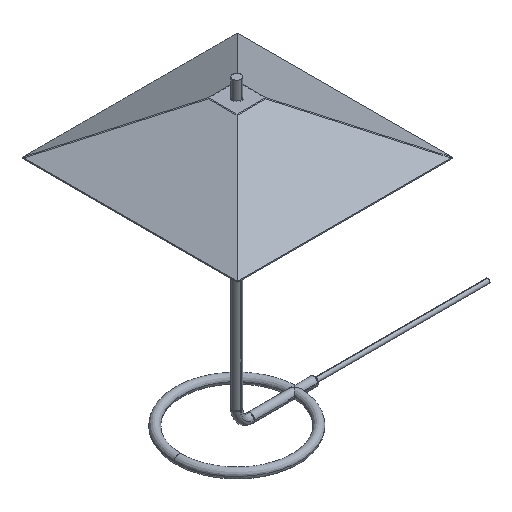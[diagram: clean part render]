
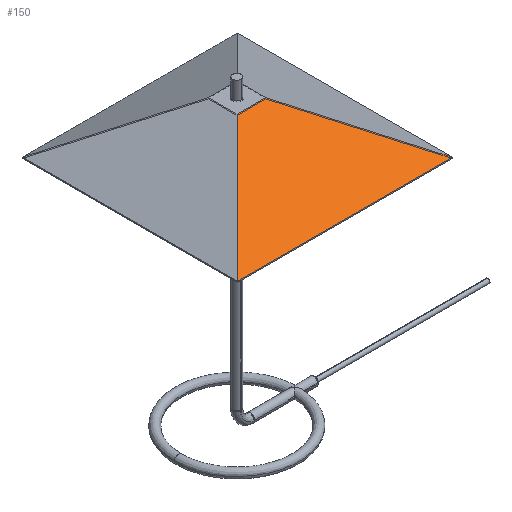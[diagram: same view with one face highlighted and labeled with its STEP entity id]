
A CAD part, isometric view. The second image highlights one B-rep face of the part: STEP entity #150.
In plain terms, the highlighted planar face has unit normal (0, -0.484, 0.875).
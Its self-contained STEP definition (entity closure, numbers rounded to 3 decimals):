
#150=ADVANCED_FACE('',(#284),#1907,.T.);
#284=FACE_OUTER_BOUND('',#424,.T.);
#424=EDGE_LOOP('',(#910,#911,#912,#913));
#910=ORIENTED_EDGE('',*,*,#1280,.F.);
#911=ORIENTED_EDGE('',*,*,#1272,.T.);
#912=ORIENTED_EDGE('',*,*,#1279,.F.);
#913=ORIENTED_EDGE('',*,*,#1277,.T.);
#1272=EDGE_CURVE('',#1777,#1774,#1408,.T.);
#1277=EDGE_CURVE('',#1780,#1781,#1413,.T.);
#1279=EDGE_CURVE('',#1780,#1774,#1415,.T.);
#1280=EDGE_CURVE('',#1777,#1781,#1416,.T.);
#1408=B_SPLINE_CURVE_WITH_KNOTS('',1,(#10106,#10107),.UNSPECIFIED.,.F.,
 .F.,(2,2),(-197.444,0.),.UNSPECIFIED.);
#1413=B_SPLINE_CURVE_WITH_KNOTS('',1,(#10116,#10117),.UNSPECIFIED.,.F.,
 .F.,(2,2),(-197.444,0.),.UNSPECIFIED.);
#1415=B_SPLINE_CURVE_WITH_KNOTS('',1,(#10120,#10121),.UNSPECIFIED.,.F.,
 .F.,(2,2),(0.,300.),.UNSPECIFIED.);
#1416=B_SPLINE_CURVE_WITH_KNOTS('',1,(#10122,#10123),.UNSPECIFIED.,.F.,
 .F.,(2,2),(-300.,0.),.UNSPECIFIED.);
#1774=VERTEX_POINT('',#10064);
#1777=VERTEX_POINT('',#10067);
#1780=VERTEX_POINT('',#10070);
#1781=VERTEX_POINT('',#10071);
#1907=PLANE('',#2111);
#2111=AXIS2_PLACEMENT_3D('',#10048,#2211,$);
#2211=DIRECTION('',(0.,-0.485,0.875));
#10048=CARTESIAN_POINT('',(-976.871,-150.167,324.48));
#10064=CARTESIAN_POINT('',(-806.871,-20.167,396.48));
#10067=CARTESIAN_POINT('',(-676.871,-150.167,324.48));
#10070=CARTESIAN_POINT('',(-846.871,-20.167,396.48));
#10071=CARTESIAN_POINT('',(-976.871,-150.167,324.48));
#10106=CARTESIAN_POINT('',(-676.871,-150.167,324.48));
#10107=CARTESIAN_POINT('',(-806.871,-20.167,396.48));
#10116=CARTESIAN_POINT('',(-846.871,-20.167,396.48));
#10117=CARTESIAN_POINT('',(-976.871,-150.167,324.48));
#10120=CARTESIAN_POINT('',(-846.871,-20.167,396.48));
#10121=CARTESIAN_POINT('',(-806.871,-20.167,396.48));
#10122=CARTESIAN_POINT('',(-676.871,-150.167,324.48));
#10123=CARTESIAN_POINT('',(-976.871,-150.167,324.48));
